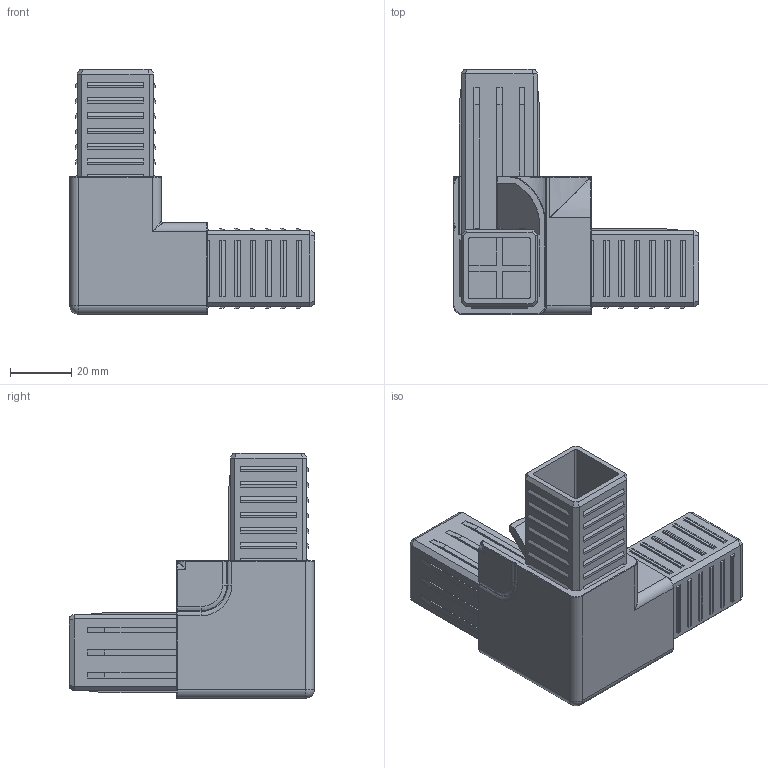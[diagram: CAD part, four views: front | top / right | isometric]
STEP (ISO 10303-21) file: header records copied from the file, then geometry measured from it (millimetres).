
FILE_DESCRIPTION (( 'STEP AP203' ), '1' );
FILE_NAME ('013.030.121.STEP', '2021-08-02T13:42:52', ( '' ), ( '' ), 'SwSTEP 2.0', 'SolidWorks 2018', '' );
FILE_SCHEMA (( 'CONFIG_CONTROL_DESIGN' ));
Length unit declared in the file: millimetre
Products named in the file (1): 013.030.121
Bounding box: 80 x 80 x 80 mm (x, y, z)
Volume: 68924.9 mm3; surface area: 47257.6 mm2
Topology: 1 solids, 1 shells, 535 faces, 1368 edges, 862 vertices
Faces by surface type: plane 397, cylinder 66, torus 36, bspline 35, sphere 1
Entity records: 17622 total; most frequent: CARTESIAN_POINT 4843, ORIENTED_EDGE 2712, DIRECTION 2458, EDGE_CURVE 1356, LINE 1104, VECTOR 1104, VERTEX_POINT 862, AXIS2_PLACEMENT_3D 677
